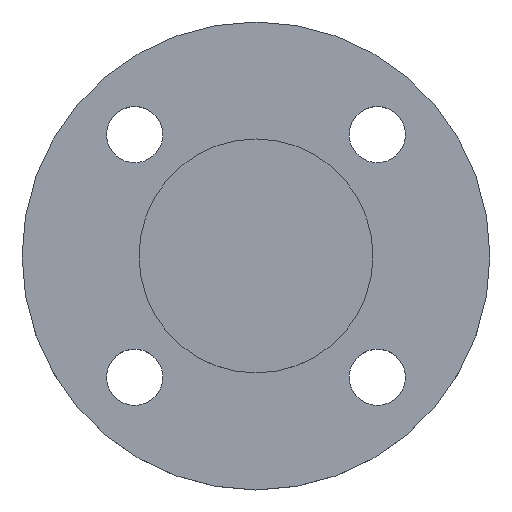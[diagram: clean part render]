
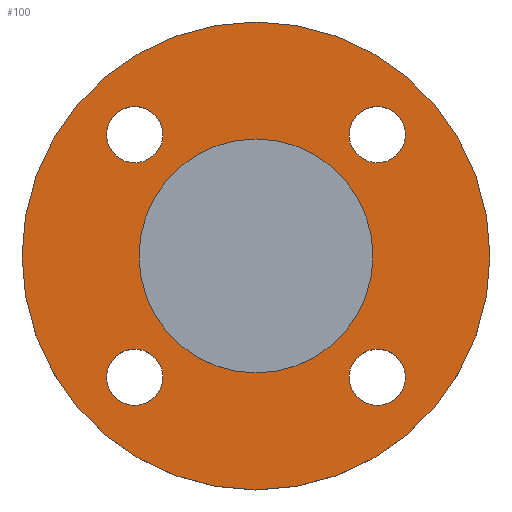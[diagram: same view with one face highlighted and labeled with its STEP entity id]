
A CAD part, top view. The second image highlights one B-rep face of the part: STEP entity #100.
In plain terms, the highlighted planar face has unit normal (0, 0, 1).
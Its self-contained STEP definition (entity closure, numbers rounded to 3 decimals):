
#3 = AXIS2_PLACEMENT_3D ( 'NONE', #484, #487, #488 ) ;
#4 = AXIS2_PLACEMENT_3D ( 'NONE', #33, #35, #231 ) ;
#6 = CARTESIAN_POINT ( 'NONE',  ( 37.5, 0., -4.5 ) ) ;
#7 = AXIS2_PLACEMENT_3D ( 'NONE', #586, #587, #588 ) ;
#8 = CARTESIAN_POINT ( 'NONE',  ( 75., 0., -4.5 ) ) ;
#12 = ORIENTED_EDGE ( 'NONE', *, *, #91, .F. ) ;
#13 = ORIENTED_EDGE ( 'NONE', *, *, #221, .F. ) ;
#24 = CIRCLE ( 'NONE', #270, 75. ) ;
#33 = CARTESIAN_POINT ( 'NONE',  ( 38.891, 38.891, -4.5 ) ) ;
#35 = DIRECTION ( 'NONE',  ( 0., 0., -1. ) ) ;
#43 = CIRCLE ( 'NONE', #7, 9. ) ;
#64 = CIRCLE ( 'NONE', #234, 9. ) ;
#75 = EDGE_CURVE ( 'NONE', #285, #355, #240, .T. ) ;
#86 = CARTESIAN_POINT ( 'NONE',  ( -47.891, 38.891, -4.5 ) ) ;
#88 = AXIS2_PLACEMENT_3D ( 'NONE', #495, #496, #497 ) ;
#91 = EDGE_CURVE ( 'NONE', #417, #319, #137, .T. ) ;
#95 = CARTESIAN_POINT ( 'NONE',  ( -38.891, 38.891, -4.5 ) ) ;
#96 = DIRECTION ( 'NONE',  ( 0., 0., -1. ) ) ;
#97 = DIRECTION ( 'NONE',  ( 1., 0., 0. ) ) ;
#98 = CARTESIAN_POINT ( 'NONE',  ( 47.891, -38.891, -4.5 ) ) ;
#100 = ADVANCED_FACE ( 'NONE', ( #500, #504, #506, #507, #508, #509 ), #510, .T. ) ;
#109 = AXIS2_PLACEMENT_3D ( 'NONE', #511, #513, #514 ) ;
#118 = CARTESIAN_POINT ( 'NONE',  ( 38.891, 38.891, -4.5 ) ) ;
#119 = DIRECTION ( 'NONE',  ( 0., 0., -1. ) ) ;
#121 = DIRECTION ( 'NONE',  ( 1., 0., 0. ) ) ;
#124 = CIRCLE ( 'NONE', #556, 9. ) ;
#129 = CARTESIAN_POINT ( 'NONE',  ( -47.891, -38.891, -4.5 ) ) ;
#134 = CARTESIAN_POINT ( 'NONE',  ( -29.891, -38.891, -4.5 ) ) ;
#137 = CIRCLE ( 'NONE', #88, 75. ) ;
#139 = CARTESIAN_POINT ( 'NONE',  ( -75., 0., -4.5 ) ) ;
#141 = CIRCLE ( 'NONE', #573, 37.5 ) ;
#142 = CARTESIAN_POINT ( 'NONE',  ( 0., 0., -4.5 ) ) ;
#161 = CIRCLE ( 'NONE', #252, 9. ) ;
#163 = CARTESIAN_POINT ( 'NONE',  ( 29.891, 38.891, -4.5 ) ) ;
#164 = CARTESIAN_POINT ( 'NONE',  ( -37.5, 0., -4.5 ) ) ;
#165 = DIRECTION ( 'NONE',  ( 0., 0., -1. ) ) ;
#166 = DIRECTION ( 'NONE',  ( -1., 0., 0. ) ) ;
#196 = CARTESIAN_POINT ( 'NONE',  ( 0., 0., -4.5 ) ) ;
#197 = DIRECTION ( 'NONE',  ( 0., 0., -1. ) ) ;
#203 = DIRECTION ( 'NONE',  ( -1., 0., 0. ) ) ;
#214 = EDGE_CURVE ( 'NONE', #412, #415, #255, .T. ) ;
#215 = CIRCLE ( 'NONE', #230, 9. ) ;
#221 = EDGE_CURVE ( 'NONE', #319, #417, #24, .T. ) ;
#224 = EDGE_CURVE ( 'NONE', #415, #412, #43, .T. ) ;
#227 = CIRCLE ( 'NONE', #228, 37.5 ) ;
#228 = AXIS2_PLACEMENT_3D ( 'NONE', #196, #197, #203 ) ;
#230 = AXIS2_PLACEMENT_3D ( 'NONE', #95, #96, #97 ) ;
#231 = DIRECTION ( 'NONE',  ( 1., 0., 0. ) ) ;
#234 = AXIS2_PLACEMENT_3D ( 'NONE', #633, #634, #635 ) ;
#235 = AXIS2_PLACEMENT_3D ( 'NONE', #575, #576, #577 ) ;
#240 = CIRCLE ( 'NONE', #3, 9. ) ;
#252 = AXIS2_PLACEMENT_3D ( 'NONE', #118, #119, #121 ) ;
#255 = CIRCLE ( 'NONE', #235, 9. ) ;
#264 = EDGE_CURVE ( 'NONE', #380, #278, #124, .T. ) ;
#270 = AXIS2_PLACEMENT_3D ( 'NONE', #578, #579, #580 ) ;
#274 = EDGE_CURVE ( 'NONE', #278, #380, #64, .T. ) ;
#278 = VERTEX_POINT ( 'NONE', #636 ) ;
#279 = VERTEX_POINT ( 'NONE', #637 ) ;
#285 = VERTEX_POINT ( 'NONE', #641 ) ;
#301 = VERTEX_POINT ( 'NONE', #6 ) ;
#319 = VERTEX_POINT ( 'NONE', #8 ) ;
#342 = ORIENTED_EDGE ( 'NONE', *, *, #264, .T. ) ;
#343 = ORIENTED_EDGE ( 'NONE', *, *, #274, .T. ) ;
#344 = ORIENTED_EDGE ( 'NONE', *, *, #224, .T. ) ;
#346 = ORIENTED_EDGE ( 'NONE', *, *, #214, .T. ) ;
#347 = ORIENTED_EDGE ( 'NONE', *, *, #75, .T. ) ;
#348 = ORIENTED_EDGE ( 'NONE', *, *, #363, .T. ) ;
#349 = ORIENTED_EDGE ( 'NONE', *, *, #391, .T. ) ;
#350 = ORIENTED_EDGE ( 'NONE', *, *, #559, .T. ) ;
#351 = ORIENTED_EDGE ( 'NONE', *, *, #470, .T. ) ;
#353 = ORIENTED_EDGE ( 'NONE', *, *, #431, .T. ) ;
#355 = VERTEX_POINT ( 'NONE', #86 ) ;
#363 = EDGE_CURVE ( 'NONE', #355, #285, #215, .T. ) ;
#380 = VERTEX_POINT ( 'NONE', #98 ) ;
#389 = EDGE_LOOP ( 'NONE', ( #342, #343 ) ) ;
#391 = EDGE_CURVE ( 'NONE', #279, #424, #161, .T. ) ;
#412 = VERTEX_POINT ( 'NONE', #129 ) ;
#415 = VERTEX_POINT ( 'NONE', #134 ) ;
#417 = VERTEX_POINT ( 'NONE', #139 ) ;
#419 = EDGE_LOOP ( 'NONE', ( #349, #350 ) ) ;
#420 = EDGE_LOOP ( 'NONE', ( #347, #348 ) ) ;
#421 = EDGE_LOOP ( 'NONE', ( #344, #346 ) ) ;
#424 = VERTEX_POINT ( 'NONE', #163 ) ;
#425 = VERTEX_POINT ( 'NONE', #164 ) ;
#430 = EDGE_LOOP ( 'NONE', ( #351, #353 ) ) ;
#431 = EDGE_CURVE ( 'NONE', #301, #425, #141, .T. ) ;
#435 = EDGE_LOOP ( 'NONE', ( #13, #12 ) ) ;
#470 = EDGE_CURVE ( 'NONE', #425, #301, #227, .T. ) ;
#484 = CARTESIAN_POINT ( 'NONE',  ( -38.891, 38.891, -4.5 ) ) ;
#487 = DIRECTION ( 'NONE',  ( 0., 0., -1. ) ) ;
#488 = DIRECTION ( 'NONE',  ( 1., 0., 0. ) ) ;
#495 = CARTESIAN_POINT ( 'NONE',  ( 0., 0., -4.5 ) ) ;
#496 = DIRECTION ( 'NONE',  ( 0., 0., -1. ) ) ;
#497 = DIRECTION ( 'NONE',  ( -1., 0., 0. ) ) ;
#500 = FACE_BOUND ( 'NONE', #389, .T. ) ;
#504 = FACE_BOUND ( 'NONE', #421, .T. ) ;
#506 = FACE_BOUND ( 'NONE', #420, .T. ) ;
#507 = FACE_BOUND ( 'NONE', #419, .T. ) ;
#508 = FACE_BOUND ( 'NONE', #430, .T. ) ;
#509 = FACE_OUTER_BOUND ( 'NONE', #435, .T. ) ;
#510 = PLANE ( 'NONE',  #109 ) ;
#511 = CARTESIAN_POINT ( 'NONE',  ( 37.5, 0., -4.5 ) ) ;
#513 = DIRECTION ( 'NONE',  ( 0., 0., 1. ) ) ;
#514 = DIRECTION ( 'NONE',  ( 1., 0., 0. ) ) ;
#556 = AXIS2_PLACEMENT_3D ( 'NONE', #621, #622, #623 ) ;
#559 = EDGE_CURVE ( 'NONE', #424, #279, #585, .T. ) ;
#573 = AXIS2_PLACEMENT_3D ( 'NONE', #142, #165, #166 ) ;
#575 = CARTESIAN_POINT ( 'NONE',  ( -38.891, -38.891, -4.5 ) ) ;
#576 = DIRECTION ( 'NONE',  ( 0., 0., -1. ) ) ;
#577 = DIRECTION ( 'NONE',  ( 1., 0., 0. ) ) ;
#578 = CARTESIAN_POINT ( 'NONE',  ( 0., 0., -4.5 ) ) ;
#579 = DIRECTION ( 'NONE',  ( 0., 0., -1. ) ) ;
#580 = DIRECTION ( 'NONE',  ( -1., 0., 0. ) ) ;
#585 = CIRCLE ( 'NONE', #4, 9. ) ;
#586 = CARTESIAN_POINT ( 'NONE',  ( -38.891, -38.891, -4.5 ) ) ;
#587 = DIRECTION ( 'NONE',  ( 0., 0., -1. ) ) ;
#588 = DIRECTION ( 'NONE',  ( 1., 0., 0. ) ) ;
#621 = CARTESIAN_POINT ( 'NONE',  ( 38.891, -38.891, -4.5 ) ) ;
#622 = DIRECTION ( 'NONE',  ( 0., 0., -1. ) ) ;
#623 = DIRECTION ( 'NONE',  ( 1., 0., 0. ) ) ;
#633 = CARTESIAN_POINT ( 'NONE',  ( 38.891, -38.891, -4.5 ) ) ;
#634 = DIRECTION ( 'NONE',  ( 0., 0., -1. ) ) ;
#635 = DIRECTION ( 'NONE',  ( 1., 0., 0. ) ) ;
#636 = CARTESIAN_POINT ( 'NONE',  ( 29.891, -38.891, -4.5 ) ) ;
#637 = CARTESIAN_POINT ( 'NONE',  ( 47.891, 38.891, -4.5 ) ) ;
#641 = CARTESIAN_POINT ( 'NONE',  ( -29.891, 38.891, -4.5 ) ) ;
